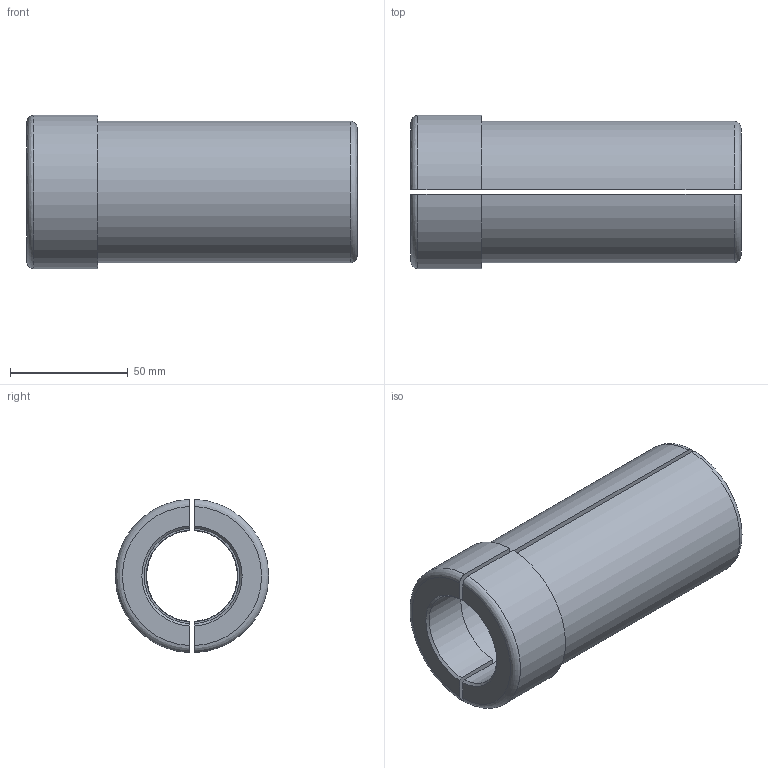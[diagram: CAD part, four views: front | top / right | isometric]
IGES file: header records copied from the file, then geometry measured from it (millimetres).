
Start section:  PTC IGES file: 6158128940.igs
Global section: file name: 6158128940.igs; native system: Creo Parametric by PTC Inc.; preprocessor: 2016050; author: greextsd; organization: Unknown; date: 20160602.134913; units: millimetre
Bounding box: 140 x 65 x 64.97 mm (x, y, z)
Volume: 160395.7 mm3; surface area: 55129.6 mm2
Topology: 2 solids, 2 shells, 38 faces, 102 edges, 68 vertices
Faces by surface type: revolution 24, bspline 14
